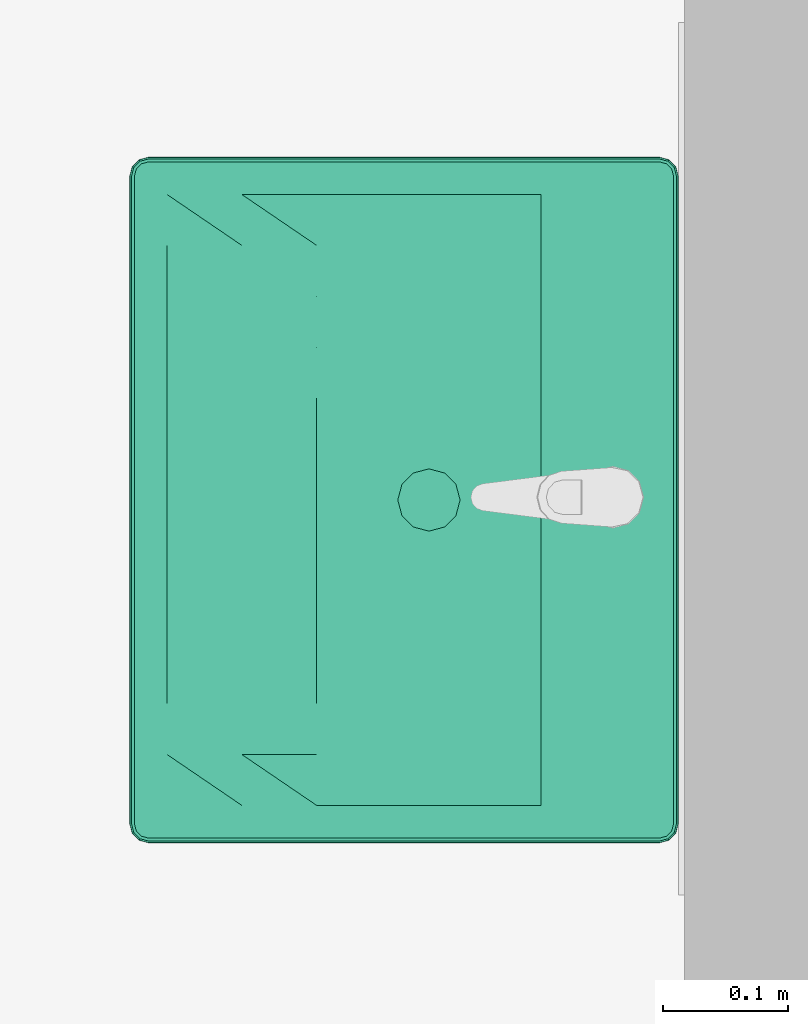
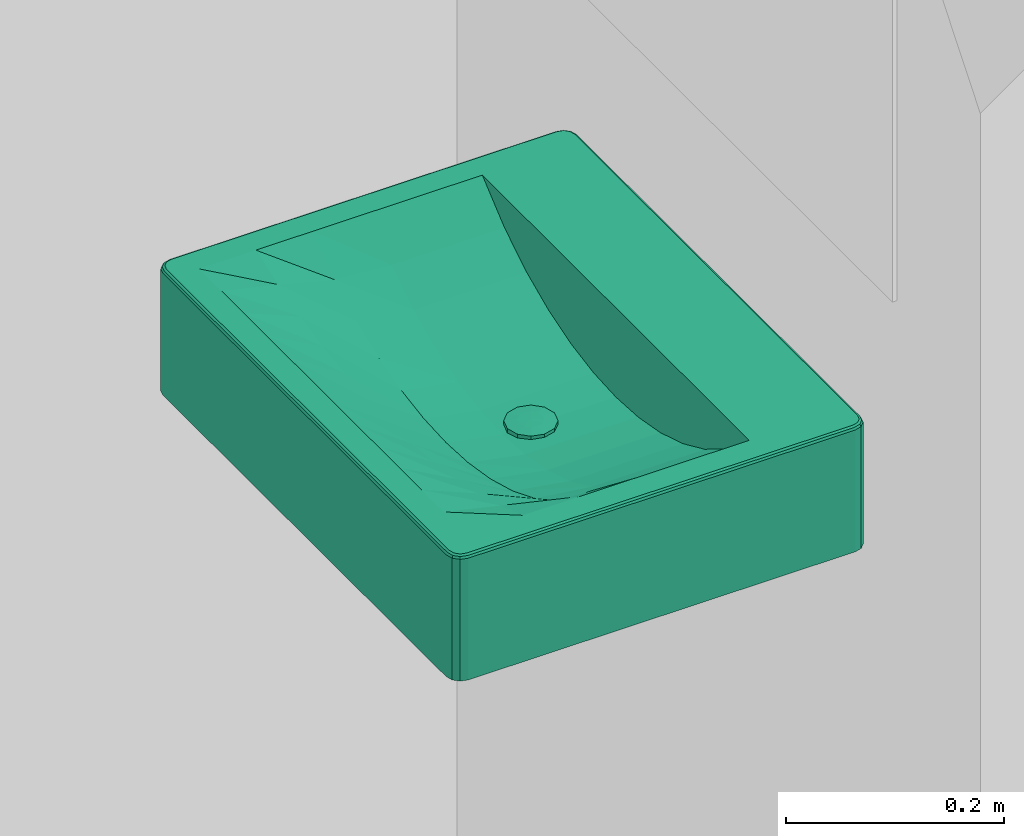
# One storey, part 81 of 127: 1 flow terminal.
"""IFC2X3 building model written with IfcOpenShell, lengths in millimetres."""

from ifc_helpers import new_model, entity, si_unit, converted_unit, derived_unit, money_unit, direction, frame, origin_with_axes, place, context, subcontext, project, spatial, open_shell, faceted_brep, surface_model, source, transform, mapped, type_object, element, save


model = new_model("IFC2X3")

# Units and contexts
model_context = context("Model", 3, precision=1e-05, world=origin_with_axes(), true_north=direction((0.0, 1.0)))
body_context = subcontext(model_context, "Body", "Model", "MODEL_VIEW")
ifc_project = project(units=[si_unit("LENGTHUNIT", "METRE", prefix="MILLI"), si_unit("AREAUNIT", "SQUARE_METRE"), si_unit("VOLUMEUNIT", "CUBIC_METRE"), converted_unit("PLANEANGLEUNIT", "DEGREE", entity("IfcPlaneAngleMeasure", 0.0174532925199), si_unit("PLANEANGLEUNIT", "RADIAN"), dimensions=[0, 0, 0, 0, 0, 0, 0]), si_unit("SOLIDANGLEUNIT", "STERADIAN"), money_unit("EUR"), converted_unit("TIMEUNIT", "Year", entity("IfcTimeMeasure", 31556926.0), si_unit("TIMEUNIT", "SECOND"), dimensions=[0, 0, 1, 0, 0, 0, 0]), si_unit("MASSUNIT", "GRAM", prefix="KILO"), si_unit("THERMODYNAMICTEMPERATUREUNIT", "DEGREE_CELSIUS"), si_unit("LUMINOUSINTENSITYUNIT", "LUMEN"), si_unit("ENERGYUNIT", "JOULE", prefix="MEGA"), derived_unit("THERMALCONDUCTANCEUNIT", [(si_unit("POWERUNIT", "WATT"), 1), (si_unit("LENGTHUNIT", "METRE"), -1), (si_unit("THERMODYNAMICTEMPERATUREUNIT", "KELVIN"), -1)]), derived_unit("SPECIFICHEATCAPACITYUNIT", [(si_unit("ENERGYUNIT", "JOULE"), 1), (si_unit("MASSUNIT", "GRAM", prefix="KILO"), -1), (si_unit("THERMODYNAMICTEMPERATUREUNIT", "KELVIN"), -1)]), derived_unit("MASSDENSITYUNIT", [(si_unit("MASSUNIT", "GRAM", prefix="KILO"), 1), (si_unit("VOLUMEUNIT", "CUBIC_METRE"), -1)])], contexts=[model_context])

# Site, building, storey
site_placement = place(None, origin_with_axes())
site = spatial("IfcSite", under=ifc_project, at=site_placement, Name="Site", CompositionType="ELEMENT")
building_placement = place(site_placement, origin_with_axes())
building = spatial("IfcBuilding", under=site, at=building_placement, Name="Building", CompositionType="ELEMENT")
storey_placement = place(building_placement, origin_with_axes())
storey = spatial("IfcBuildingStorey", under=building, at=storey_placement, Name="1 KORRUS", CompositionType="ELEMENT", Elevation=0.0)

# Flow terminal
sanitary_terminal_type = type_object("IfcSanitaryTerminalType", Name="Basin 22", PredefinedType="NOTDEFINED")
shared_shape = source(origin_with_axes(), body_context, "Body", "SurfaceModel", [
    faceted_brep([(260.0, -440.0, 860.0), (-260.0, -440.0, 860.0), (-267.5, -437.990381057, 860.0), (-272.990381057, -432.5, 860.0), (-275.0, -425.0, 860.0), (-275.0, -15.0, 860.0), (-272.990381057, -7.5, 860.0), (-267.5, -2.00961894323, 860.0), (-260.0, 0.0, 860.0), (260.0, 0.0, 860.0), (267.5, -2.00961894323, 860.0), (272.990381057, -7.5, 860.0), (275.0, -15.0, 860.0), (275.0, -425.0, 860.0), (272.990381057, -432.5, 860.0), (267.5, -437.990381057, 860.0), (-245.0, -410.0, 860.0), (245.0, -410.0, 860.0), (245.0, -110.0, 860.0), (-245.0, -110.0, 860.0), (259.999999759, -440.00000039, 995.0), (-259.999999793, -440.00000039, 995.0), (-267.500000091, -437.990381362, 995.0), (-272.990381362, -432.500000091, 995.0), (-275.00000039, -424.999999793, 995.0), (-275.00000039, -14.9999996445, 995.0), (-272.990381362, -7.50000027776, 995.0), (-267.500000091, -2.00961900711, 995.0), (-259.999999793, 2.02655670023e-08, 995.0), (259.999999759, 2.02655670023e-08, 995.0), (267.500000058, -2.00961900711, 995.0), (272.990381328, -7.50000027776, 995.0), (275.000000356, -14.9999996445, 995.0), (275.000000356, -424.999999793, 995.0), (272.990381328, -432.500000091, 995.0), (267.500000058, -437.990381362, 995.0), (-245.0, -410.0, 999.999999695), (245.0, -410.0, 999.999999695), (245.0, -110.0, 999.999999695), (-245.0, -110.0, 999.999999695), (259.977570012, -439.829629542, 996.294095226), (-259.977570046, -439.829629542, 996.294095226), (-267.411809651, -437.837631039, 996.294095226), (-272.837631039, -432.411809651, 996.294095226), (-274.829629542, -424.977570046, 996.294095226), (-274.829629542, -15.0224293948, 996.294095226), (-272.837631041, -7.58819072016, 996.294095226), (-267.411809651, -2.16236933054, 996.294095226), (-259.977570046, -0.170370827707, 996.294095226), (259.977570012, -0.170370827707, 996.294095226), (267.411809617, -2.16236933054, 996.294095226), (272.837631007, -7.58819072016, 996.294095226), (274.829629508, -15.0224293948, 996.294095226), (274.829629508, -424.977570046, 996.294095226), (272.837631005, -432.411809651, 996.294095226), (267.411809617, -437.837631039, 996.294095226), (-259.34173768, -4.99999712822, 999.999999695), (-264.911811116, -6.49249381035, 999.999999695), (-268.507506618, -10.0881893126, 999.999999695), (-270.000003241, -15.6582618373, 999.999999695), (-270.000003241, -424.34173768, 999.999999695), (-268.507506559, -429.911811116, 999.999999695), (-264.911811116, -433.507506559, 999.999999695), (-259.34173768, -435.000003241, 999.999999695), (259.341737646, -435.000003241, 999.999999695), (264.911811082, -433.507506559, 999.999999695), (268.507506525, -429.911811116, 999.999999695), (270.000003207, -424.34173768, 999.999999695), (270.000003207, -15.6582618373, 999.999999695), (268.507506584, -10.0881893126, 999.999999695), (264.911811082, -6.49249381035, 999.999999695), (259.341737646, -4.99999712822, 999.999999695), (259.807199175, -438.535534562, 998.535533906), (-259.807199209, -438.535534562, 998.535533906), (-266.741936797, -436.677377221, 998.535533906), (-271.677377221, -431.741936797, 998.535533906), (-273.535534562, -424.807199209, 998.535533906), (-273.535534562, -15.1928002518, 998.535533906), (-271.677377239, -8.2580635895, 998.535533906), (-266.741936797, -3.32262314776, 998.535533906), (-259.807199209, -1.46446580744, 998.535533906), (259.807199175, -1.46446580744, 998.535533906), (266.741936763, -3.32262314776, 998.535533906), (271.677377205, -8.2580635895, 998.535533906), (273.535534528, -15.1928002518, 998.535533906), (273.535534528, -424.807199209, 998.535533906), (271.677377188, -431.741936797, 998.535533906), (266.741936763, -436.677377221, 998.535533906), (-265.581682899, -5.33224184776, 999.829629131), (-259.512108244, -3.70590421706, 999.829629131), (-269.667758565, -9.41831751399, 999.829629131), (-271.294096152, -15.4878912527, 999.829629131), (-271.294096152, -424.512108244, 999.829629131), (-269.667758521, -430.581682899, 999.829629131), (-265.581682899, -434.667758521, 999.829629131), (-259.512108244, -436.294096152, 999.829629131), (259.51210821, -436.294096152, 999.829629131), (265.581682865, -434.667758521, 999.829629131), (269.667758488, -430.581682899, 999.829629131), (271.294096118, -424.512108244, 999.829629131), (271.294096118, -15.4878912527, 999.829629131), (269.667758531, -9.41831751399, 999.829629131), (265.581682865, -5.33224184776, 999.829629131), (259.51210821, -3.70590421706, 999.829629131)], [[[0, 1, 2, 3, 4, 5, 6, 7, 8, 9, 10, 11, 12, 13, 14, 15], [16, 17, 18, 19]], [[0, 20, 21, 1]], [[1, 21, 22, 2]], [[2, 22, 23, 3]], [[3, 23, 24, 4]], [[4, 24, 25, 5]], [[5, 25, 26, 6]], [[6, 26, 27, 7]], [[7, 27, 28, 8]], [[8, 28, 29, 9]], [[9, 29, 30, 10]], [[10, 30, 31, 11]], [[11, 31, 32, 12]], [[12, 32, 33, 13]], [[13, 33, 34, 14]], [[14, 34, 35, 15]], [[15, 35, 20, 0]], [[36, 37, 17, 16]], [[37, 38, 18, 17]], [[38, 39, 19, 18]], [[39, 36, 16, 19]], [[20, 40, 41, 21]], [[21, 41, 42, 22]], [[22, 42, 43, 23]], [[23, 43, 44, 24]], [[24, 44, 45, 25]], [[25, 45, 46, 26]], [[26, 46, 47, 27]], [[27, 47, 48, 28]], [[28, 48, 49, 29]], [[29, 49, 50, 30]], [[30, 50, 51, 31]], [[31, 51, 52, 32]], [[32, 52, 53, 33]], [[33, 53, 54, 34]], [[34, 54, 55, 35]], [[35, 55, 40, 20]], [[56, 57, 58, 59, 60, 61, 62, 63, 64, 65, 66, 67, 68, 69, 70, 71], [36, 39, 38, 37]], [[40, 72, 73, 41]], [[41, 73, 74, 42]], [[42, 74, 75, 43]], [[43, 75, 76, 44]], [[44, 76, 77, 45]], [[45, 77, 78, 46]], [[46, 78, 79, 47]], [[47, 79, 80, 48]], [[48, 80, 81, 49]], [[49, 81, 82, 50]], [[50, 82, 83, 51]], [[51, 83, 84, 52]], [[52, 84, 85, 53]], [[53, 85, 86, 54]], [[54, 86, 87, 55]], [[55, 87, 72, 40]], [[88, 57, 56, 89]], [[90, 58, 57, 88]], [[91, 59, 58, 90]], [[92, 60, 59, 91]], [[93, 61, 60, 92]], [[94, 62, 61, 93]], [[95, 63, 62, 94]], [[96, 64, 63, 95]], [[97, 65, 64, 96]], [[98, 66, 65, 97]], [[99, 67, 66, 98]], [[100, 68, 67, 99]], [[101, 69, 68, 100]], [[102, 70, 69, 101]], [[103, 71, 70, 102]], [[89, 56, 71, 103]], [[72, 96, 95, 73]], [[73, 95, 94, 74]], [[74, 94, 93, 75]], [[75, 93, 92, 76]], [[76, 92, 91, 77]], [[77, 91, 90, 78]], [[78, 90, 88, 79]], [[79, 88, 89, 80]], [[80, 89, 103, 81]], [[81, 103, 102, 82]], [[82, 102, 101, 83]], [[83, 101, 100, 84]], [[84, 100, 99, 85]], [[85, 99, 98, 86]], [[86, 98, 97, 87]], [[87, 97, 96, 72]]]),
    faceted_brep([(-245.0, -410.0, 860.0), (-245.0, -110.0, 860.0), (245.0, -110.0, 860.0), (245.0, -410.0, 860.0), (12.5, -221.641635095, 860.0), (21.6506350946, -212.491, 860.0), (25.0, -199.991, 860.0), (21.6506350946, -187.491, 860.0), (12.5, -178.340364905, 860.0), (0.0, -174.991, 860.0), (-12.5, -178.340364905, 860.0), (-21.6506350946, -187.491, 860.0), (-25.0, -199.991, 860.0), (-21.6506350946, -212.491, 860.0), (-12.5, -221.641635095, 860.0), (0.0, -224.991, 860.0), (-245.0, -290.0, 1000.0), (-245.0, -230.0, 1000.0), (-245.0, -170.0, 1000.0), (-245.0, -110.0, 1000.0), (-245.0, -410.0, 1000.0), (-245.0, -350.0, 1000.0), (122.5, -110.0, 922.129168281), (163.333333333, -110.0, 940.432026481), (204.166666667, -110.0, 965.689615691), (245.0, -110.0, 1000.0), (-204.166666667, -110.0, 965.689615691), (-163.333333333, -110.0, 940.432026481), (-122.5, -110.0, 922.129168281), (-81.6666666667, -110.0, 909.657569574), (-40.8333333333, -110.0, 902.389246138), (0.0, -110.0, 900.0), (40.8333333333, -110.0, 902.389246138), (81.6666666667, -110.0, 909.657569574), (245.0, -230.0, 1000.0), (245.0, -290.0, 1000.0), (245.0, -350.0, 1000.0), (245.0, -410.0, 1000.0), (245.0, -170.0, 1000.0), (-122.5, -410.0, 1000.0), (-163.333333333, -410.0, 1000.0), (-204.166666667, -410.0, 1000.0), (204.166666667, -410.0, 1000.0), (163.333333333, -410.0, 1000.0), (122.5, -410.0, 1000.0), (81.6666666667, -410.0, 1000.0), (40.8333333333, -410.0, 1000.0), (0.0, -410.0, 1000.0), (-40.8333333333, -410.0, 1000.0), (-81.6666666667, -410.0, 1000.0), (12.5, -221.641635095, 900.731401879), (21.6506350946, -212.491, 901.266825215), (25.0, -199.991, 901.462803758), (21.6506350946, -187.491, 901.266825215), (12.5, -178.340364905, 900.731401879), (0.0, -174.991, 900.0), (-12.5, -178.340364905, 900.731401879), (-21.6506350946, -187.491, 901.266825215), (-25.0, -199.991, 901.462803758), (-21.6506350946, -212.491, 901.266825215), (-12.5, -221.641635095, 900.731401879), (0.0, -224.991, 900.0), (-204.166666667, -230.0, 965.689615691), (-204.166666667, -170.0, 965.689615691), (-204.166666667, -350.0, 986.166287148), (-204.166666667, -290.0, 970.594758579), (163.333333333, -170.0, 940.432026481), (122.5, -170.0, 922.129168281), (204.166666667, -170.0, 965.689615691), (-163.333333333, -170.0, 940.432026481), (-122.5, -170.0, 922.129168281), (-81.6666666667, -170.0, 909.657569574), (-40.8333333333, -170.0, 902.389246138), (0.0, -170.0, 900.0), (40.8333333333, -170.0, 902.389246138), (81.6666666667, -170.0, 909.657569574), (204.166666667, -290.0, 970.594758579), (204.166666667, -350.0, 986.166287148), (204.166666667, -230.0, 965.689615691), (-122.5, -350.0, 966.539843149), (-163.333333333, -350.0, 975.056802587), (163.333333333, -350.0, 975.056802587), (122.5, -350.0, 966.539843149), (81.6666666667, -350.0, 960.520155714), (40.8333333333, -350.0, 956.933224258), (0.0, -350.0, 955.741663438), (-40.8333333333, -350.0, 956.933224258), (-81.6666666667, -350.0, 960.520155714), (0.0, -230.0, 900.0), (40.8333333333, -230.0, 902.389246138), (-40.8333333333, -230.0, 902.389246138), (-163.333333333, -230.0, 940.432026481), (163.333333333, -230.0, 940.432026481), (122.5, -230.0, 922.129168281), (-122.5, -230.0, 922.129168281), (-81.6666666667, -230.0, 909.657569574), (81.6666666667, -230.0, 909.657569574), (0.0, -290.0, 912.025576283), (-40.8333333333, -290.0, 914.19632473), (-163.333333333, -290.0, 948.375008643), (122.5, -290.0, 932.026603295), (163.333333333, -290.0, 948.375008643), (-122.5, -290.0, 932.026603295), (-81.6666666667, -290.0, 920.783680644), (40.8333333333, -290.0, 914.19632473), (81.6666666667, -290.0, 920.783680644)], [[[0, 1, 2, 3], [4, 5, 6, 7, 8, 9, 10, 11, 12, 13, 14, 15]], [[16, 17, 18, 19, 1, 0, 20, 21]], [[22, 23, 24, 25, 2, 1, 19, 26, 27, 28, 29, 30, 31, 32, 33]], [[34, 35, 36, 37, 3, 2, 25, 38]], [[39, 40, 41, 20, 0, 3, 37, 42, 43, 44, 45, 46, 47, 48, 49]], [[50, 51, 5, 4]], [[51, 52, 6, 5]], [[52, 53, 7, 6]], [[53, 54, 8, 7]], [[54, 55, 9, 8]], [[55, 56, 10, 9]], [[56, 57, 11, 10]], [[57, 58, 12, 11]], [[58, 59, 13, 12]], [[59, 60, 14, 13]], [[60, 61, 15, 14]], [[61, 50, 4, 15]], [[16, 62, 17]], [[62, 63, 18, 17]], [[63, 26, 19, 18]], [[20, 64, 21]], [[21, 65, 16]], [[66, 23, 22, 67]], [[68, 24, 23, 66]], [[38, 25, 24, 68]], [[69, 27, 26, 63]], [[70, 28, 27, 69]], [[71, 29, 28, 70]], [[72, 30, 29, 71]], [[73, 31, 30, 72]], [[74, 32, 31, 73]], [[75, 33, 32, 74]], [[67, 22, 33, 75]], [[76, 35, 34]], [[77, 36, 35]], [[42, 37, 36]], [[34, 38, 68, 78]], [[40, 39, 79]], [[41, 40, 80]], [[20, 41, 64]], [[43, 42, 77]], [[44, 43, 81]], [[45, 44, 82]], [[46, 45, 83]], [[47, 46, 84]], [[48, 47, 85]], [[49, 48, 86]], [[39, 49, 87]], [[54, 53, 52, 51, 50, 61, 88, 89, 74, 73, 55]], [[56, 55, 73, 72, 90, 88, 61, 60, 59, 58, 57]], [[16, 65, 62]], [[91, 69, 63, 62]], [[21, 64, 65]], [[92, 66, 67, 93]], [[78, 68, 66, 92]], [[94, 70, 69, 91]], [[95, 71, 70, 94]], [[90, 72, 71, 95]], [[96, 75, 74, 89]], [[93, 67, 75, 96]], [[77, 35, 76]], [[76, 34, 78]], [[42, 36, 77]], [[39, 87, 79]], [[40, 79, 80]], [[41, 80, 64]], [[43, 77, 81]], [[44, 81, 82]], [[45, 82, 83]], [[46, 83, 84]], [[47, 84, 85]], [[48, 85, 86]], [[49, 86, 87]], [[97, 89, 88]], [[98, 88, 90]], [[65, 91, 62]], [[64, 99, 65]], [[100, 92, 93]], [[101, 78, 92]], [[99, 94, 91]], [[102, 95, 94]], [[103, 90, 95]], [[104, 96, 89]], [[105, 93, 96]], [[81, 77, 76]], [[101, 76, 78]], [[79, 87, 103]], [[80, 79, 102]], [[64, 80, 99]], [[82, 81, 101]], [[83, 82, 100]], [[84, 83, 105]], [[85, 84, 104]], [[86, 85, 97]], [[87, 86, 98]], [[97, 104, 89]], [[98, 97, 88]], [[103, 98, 90]], [[65, 99, 91]], [[100, 101, 92]], [[105, 100, 93]], [[99, 102, 94]], [[102, 103, 95]], [[104, 105, 96]], [[81, 76, 101]], [[87, 98, 103]], [[79, 103, 102]], [[80, 102, 99]], [[82, 101, 100]], [[83, 100, 105]], [[84, 105, 104]], [[85, 104, 97]], [[86, 97, 98]]]),
    faceted_brep([(21.6506350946, -212.491, 900.0), (12.5, -221.641635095, 900.0), (0.0, -224.991, 900.0), (-12.5, -221.641635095, 900.0), (-21.6506350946, -212.491, 900.0), (-25.0, -199.991, 900.0), (-21.6506350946, -187.491, 900.0), (-12.5, -178.340364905, 900.0), (0.0, -174.991, 900.0), (12.5, -178.340364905, 900.0), (21.6506350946, -187.491, 900.0), (25.0, -199.991, 900.0), (21.6506350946, -212.491, 905.0), (12.5, -221.641635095, 905.0), (0.0, -224.991, 905.0), (-12.5, -221.641635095, 905.0), (-21.6506350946, -212.491, 905.0), (-25.0, -199.991, 905.0), (-21.6506350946, -187.491, 905.0), (-12.5, -178.340364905, 905.0), (0.0, -174.991, 905.0), (12.5, -178.340364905, 905.0), (21.6506350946, -187.491, 905.0), (25.0, -199.991, 905.0)], [[[0, 1, 2, 3, 4, 5, 6, 7, 8, 9, 10, 11]], [[1, 0, 12, 13]], [[2, 1, 13, 14]], [[3, 2, 14, 15]], [[4, 3, 15, 16]], [[5, 4, 16, 17]], [[6, 5, 17, 18]], [[7, 6, 18, 19]], [[8, 7, 19, 20]], [[9, 8, 20, 21]], [[10, 9, 21, 22]], [[11, 10, 22, 23]], [[0, 11, 23, 12]], [[12, 23, 22, 21, 20, 19, 18, 17, 16, 15, 14, 13]]]),
    surface_model("IfcShellBasedSurfaceModel", [(0.0, -199.991, 907.0), (0.0, -187.369094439, 906.49757372), (-6.31095278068, -189.06010914, 906.49757372), (6.31095278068, -189.06010914, 906.49757372), (0.0, -174.991, 905.0), (-12.5, -178.340364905, 905.0), (-10.9308908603, -193.680047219, 906.49757372), (10.9308908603, -193.680047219, 906.49757372), (12.5, -178.340364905, 905.0), (-21.6506350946, -187.491, 905.0), (-12.6219055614, -199.991, 906.49757372), (12.6219055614, -199.991, 906.49757372), (21.6506350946, -187.491, 905.0), (-25.0, -199.991, 905.0), (-10.9308908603, -206.301952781, 906.49757372), (10.9308908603, -206.301952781, 906.49757372), (25.0, -199.991, 905.0), (-21.6506350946, -212.491, 905.0), (-6.31095278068, -210.92189086, 906.49757372), (6.31095278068, -210.92189086, 906.49757372), (21.6506350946, -212.491, 905.0), (-12.5, -221.641635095, 905.0), (0.0, -212.612905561, 906.49757372), (12.5, -221.641635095, 905.0), (0.0, -224.991, 905.0)], [open_shell([[[0, 1, 2]], [[0, 3, 1]], [[2, 1, 4, 5]], [[0, 2, 6]], [[0, 7, 3]], [[1, 3, 8, 4]], [[6, 2, 5, 9]], [[0, 6, 10]], [[0, 11, 7]], [[3, 7, 12, 8]], [[10, 6, 9, 13]], [[0, 10, 14]], [[0, 15, 11]], [[7, 11, 16, 12]], [[14, 10, 13, 17]], [[0, 14, 18]], [[0, 19, 15]], [[11, 15, 20, 16]], [[18, 14, 17, 21]], [[0, 18, 22]], [[0, 22, 19]], [[15, 19, 23, 20]], [[22, 18, 21, 24]], [[19, 22, 24, 23]]])]),
])
flow_terminal_placement = place(storey_placement, frame((27729.7274585, 61460.6872007, 40.0), z_axis=(0.0, 0.0, 1.0), x_axis=(0.0, -1.0, 0.0)))
element("IfcFlowTerminal", 1, at=flow_terminal_placement, inside=storey, type_object=sanitary_terminal_type, Name="Valamu", context=body_context, shape_type="MappedRepresentation", body=[
    mapped(shared_shape, transform((0.0, 0.0, 0.0))),
])

save(model, "model.ifc")
